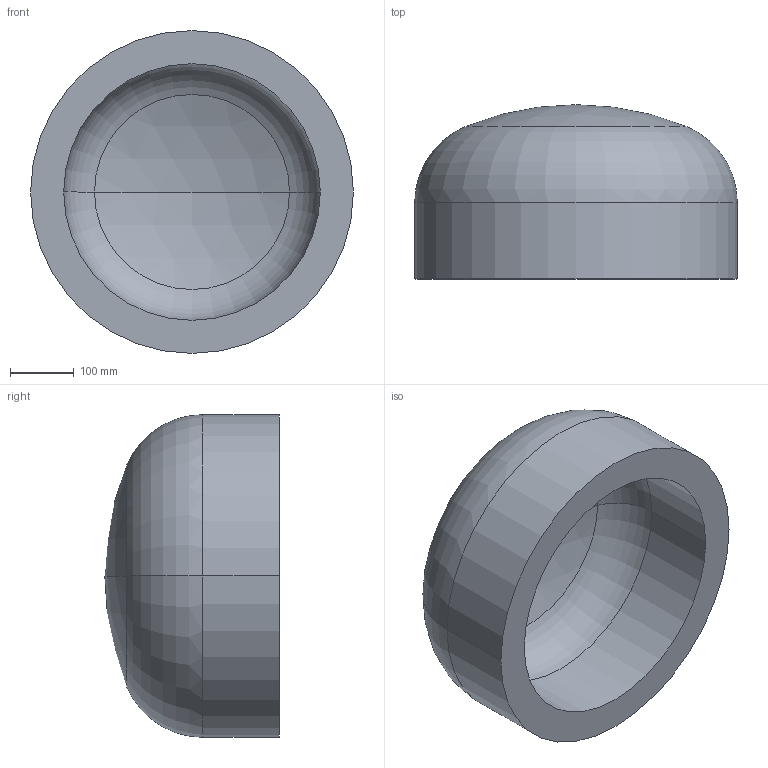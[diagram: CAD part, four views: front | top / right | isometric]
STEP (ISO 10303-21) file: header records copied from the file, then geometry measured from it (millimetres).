
FILE_DESCRIPTION (( 'STEP AP203' ), '1' );
FILE_NAME ('DIN 28013 Korbbogenform_-_Boden DIN 28013 - 508 x 120 - I - s=52.step', '2016-07-01T07:55:47', ( '' ), ( '' ), 'SwSTEP 2.0', 'SolidWorks 2013', '' );
FILE_SCHEMA (( 'CONFIG_CONTROL_DESIGN' ));
Length unit declared in the file: millimetre
Products named in the file (1): DIN 28013 Korbbogenform_-_Boden DIN 28013 - 508 x 120 - I - s=52
Bounding box: 508 x 274.34 x 508 mm (x, y, z)
Volume: 21794614.1 mm3; surface area: 918411 mm2
Topology: 1 solids, 1 shells, 13 faces, 24 edges, 14 vertices
Faces by surface type: torus 4, cylinder 4, sphere 4, plane 1
Entity records: 407 total; most frequent: DIRECTION 72, CARTESIAN_POINT 52, ORIENTED_EDGE 48, AXIS2_PLACEMENT_3D 34, EDGE_CURVE 24, CIRCLE 20, VERTEX_POINT 14, EDGE_LOOP 14
